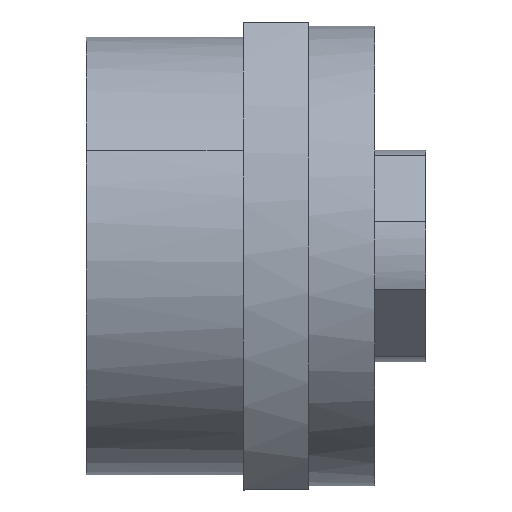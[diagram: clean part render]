
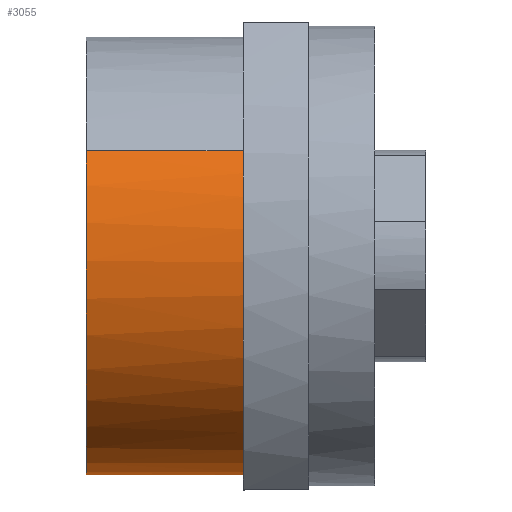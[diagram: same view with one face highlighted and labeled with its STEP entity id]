
A CAD part, top view. The second image highlights one B-rep face of the part: STEP entity #3055.
In plain terms, the highlighted cylindrical face has radius 60 mm (diameter 120 mm), a partial arc.
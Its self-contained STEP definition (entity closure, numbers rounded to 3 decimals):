
#1923=CARTESIAN_POINT('Vertex',(-18.,28.766,52.655)) ;
#1925=CARTESIAN_POINT('Vertex',(-18.,-28.766,-52.655)) ;
#1929=CARTESIAN_POINT('Control Point',(-18.,-28.766,-52.655)) ;
#1930=CARTESIAN_POINT('Control Point',(-18.,-33.761,-49.926)) ;
#1931=CARTESIAN_POINT('Control Point',(-18.,-38.432,-46.605)) ;
#1932=CARTESIAN_POINT('Control Point',(-18.,-42.687,-42.742)) ;
#1933=CARTESIAN_POINT('Control Point',(-18.,-50.198,-34.082)) ;
#1934=CARTESIAN_POINT('Control Point',(-18.,-55.476,-23.905)) ;
#1935=CARTESIAN_POINT('Control Point',(-18.,-57.497,-18.526)) ;
#1936=CARTESIAN_POINT('Control Point',(-18.,-60.223,-7.391)) ;
#1937=CARTESIAN_POINT('Control Point',(-18.,-60.27,4.073)) ;
#1938=CARTESIAN_POINT('Control Point',(-18.,-59.61,9.781)) ;
#1939=CARTESIAN_POINT('Control Point',(-18.,-56.95,20.932)) ;
#1940=CARTESIAN_POINT('Control Point',(-18.,-51.755,31.152)) ;
#1941=CARTESIAN_POINT('Control Point',(-18.,-48.561,35.929)) ;
#1942=CARTESIAN_POINT('Control Point',(-18.,-41.101,44.633)) ;
#1943=CARTESIAN_POINT('Control Point',(-18.,-31.813,51.352)) ;
#1944=CARTESIAN_POINT('Control Point',(-18.,-26.789,54.142)) ;
#1945=CARTESIAN_POINT('Control Point',(-18.,-16.177,58.479)) ;
#1946=CARTESIAN_POINT('Control Point',(-18.,-4.845,60.213)) ;
#1947=CARTESIAN_POINT('Control Point',(-18.,0.898,60.401)) ;
#1948=CARTESIAN_POINT('Control Point',(-18.,10.167,59.598)) ;
#1949=CARTESIAN_POINT('Control Point',(-18.,19.074,57.054)) ;
#1950=CARTESIAN_POINT('Control Point',(-18.,22.415,55.826)) ;
#1951=CARTESIAN_POINT('Control Point',(-18.,25.653,54.355)) ;
#1952=CARTESIAN_POINT('Control Point',(-18.,28.766,52.655)) ;
#3013=CARTESIAN_POINT('Line Origine',(-82.781,28.766,52.655)) ;
#3017=CARTESIAN_POINT('Vertex',(-61.,28.766,52.655)) ;
#3020=CARTESIAN_POINT('Line Origine',(-82.781,-28.766,-52.655)) ;
#3024=CARTESIAN_POINT('Vertex',(-61.,-28.766,-52.655)) ;
#3039=CARTESIAN_POINT('Axis2P3D Location',(-82.781,0.,0.)) ;
#3044=CARTESIAN_POINT('Axis2P3D Location',(-61.,0.,0.)) ;
#3014=DIRECTION('Vector Direction',(-1.,0.,0.)) ;
#3021=DIRECTION('Vector Direction',(-1.,0.,0.)) ;
#3040=DIRECTION('Axis2P3D Direction',(-1.,0.,0.)) ;
#3041=DIRECTION('Axis2P3D XDirection',(0.,-0.479,-0.878)) ;
#3045=DIRECTION('Axis2P3D Direction',(-1.,0.,0.)) ;
#3042=AXIS2_PLACEMENT_3D('Cylinder Axis2P3D',#3039,#3040,#3041) ;
#3046=AXIS2_PLACEMENT_3D('Circle Axis2P3D',#3044,#3045,$) ;
#3050=ORIENTED_EDGE('',*,*,#3026,.F.) ;
#3051=ORIENTED_EDGE('',*,*,#1953,.T.) ;
#3052=ORIENTED_EDGE('',*,*,#3019,.T.) ;
#3053=ORIENTED_EDGE('',*,*,#3048,.T.) ;
#3015=VECTOR('Line Direction',#3014,1.) ;
#3022=VECTOR('Line Direction',#3021,1.) ;
#3055=ADVANCED_FACE('FK40(H)',(#3054),#3043,.T.) ;
#1928=B_SPLINE_CURVE_WITH_KNOTS('',5,(#1929,#1930,#1931,#1932,#1933,#1934,#1935,#1936,#1937,#1938,#1939,#1940,#1941,#1942,#1943,#1944,#1945,#1946,#1947,#1948,#1949,#1950,#1951,#1952),.UNSPECIFIED.,.F.,.U.,(6,3,3,3,3,3,3,6),(0.,40.249,80.498,120.747,160.995,201.244,241.493,266.571),.UNSPECIFIED.) ;
#3047=CIRCLE('generated circle',#3046,60.) ;
#3043=CYLINDRICAL_SURFACE('generated cylinder',#3042,60.) ;
#1953=EDGE_CURVE('',#1926,#1924,#1928,.T.) ;
#3019=EDGE_CURVE('',#1924,#3018,#3016,.T.) ;
#3026=EDGE_CURVE('',#1926,#3025,#3023,.T.) ;
#3048=EDGE_CURVE('',#3018,#3025,#3047,.F.) ;
#3049=EDGE_LOOP('',(#3050,#3051,#3052,#3053)) ;
#3054=FACE_OUTER_BOUND('',#3049,.T.) ;
#3016=LINE('Line',#3013,#3015) ;
#3023=LINE('Line',#3020,#3022) ;
#1924=VERTEX_POINT('',#1923) ;
#1926=VERTEX_POINT('',#1925) ;
#3018=VERTEX_POINT('',#3017) ;
#3025=VERTEX_POINT('',#3024) ;
